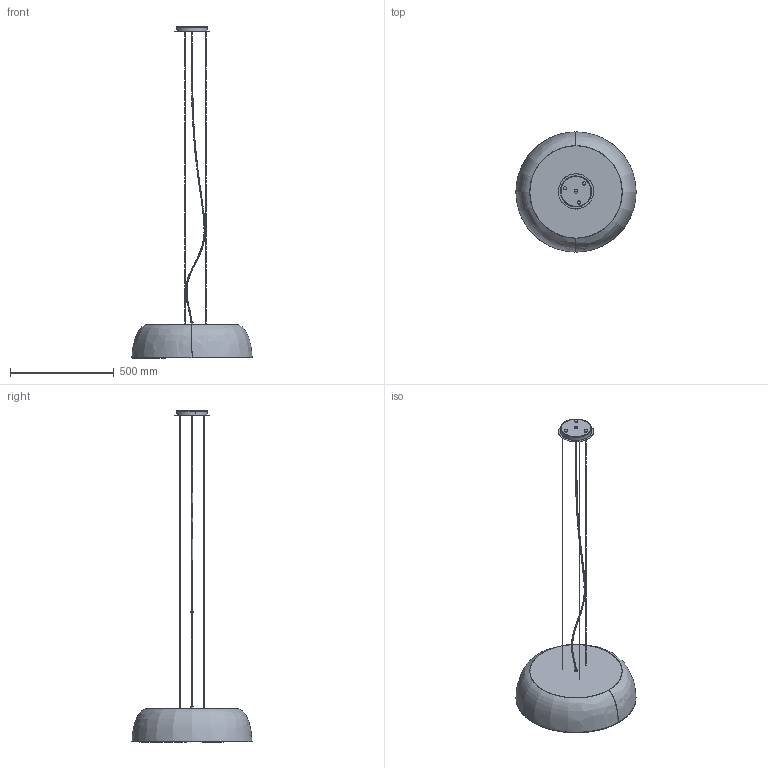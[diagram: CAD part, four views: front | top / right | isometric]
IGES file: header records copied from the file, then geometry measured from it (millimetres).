
Start section: SolidWorks IGES file using analytic representation for surfaces
Global section: file name: C:\Users\anna.bielnik\Desktop\SATELLITE ZWIS\SATELLITE M ZWIS-11230-11231-11232-11233\SATELLITE M - zwis - z³o¿enie PM.IGS; native system: SolidWorks 2023; preprocessor: SolidWorks 2023; author: anna.bielnik; date: 240510.105516; units: millimetre
Bounding box: 579.51 x 579.51 x 1601.86 mm (x, y, z)
Surface area: 1680178.7 mm2 (no closed solid volume)
Topology: 0 solids, 0 shells, 176 faces, 2916 edges, 2909 vertices
Faces by surface type: bspline 91, revolution 85
